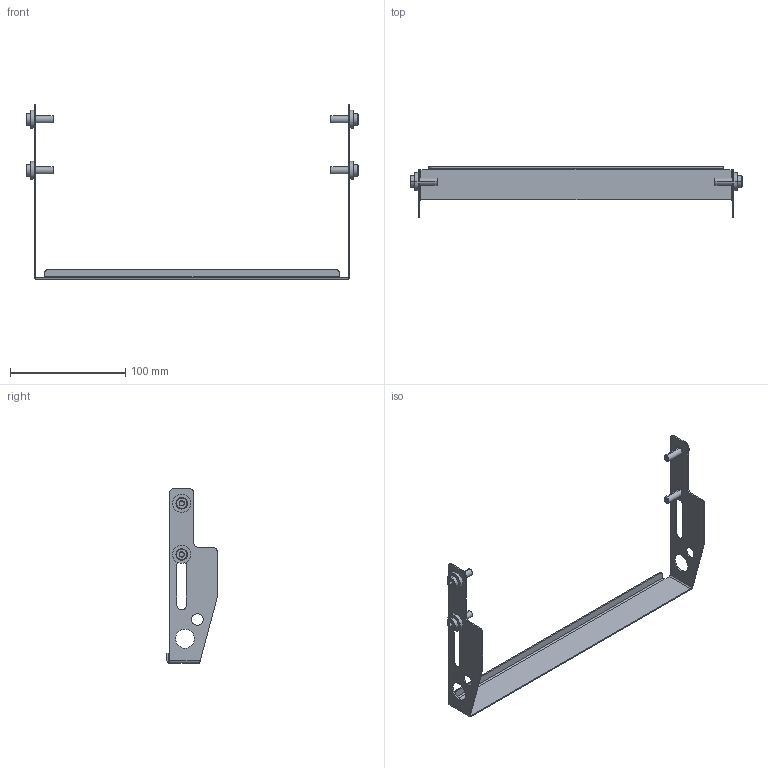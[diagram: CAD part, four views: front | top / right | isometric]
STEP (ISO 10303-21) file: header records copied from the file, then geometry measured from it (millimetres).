
FILE_DESCRIPTION((''),'2;1');
FILE_NAME('207218-10_ASM','2016-08-04T',('adam.dellomodarme'),(''),'PRO/ENGINEER BY PARAMETRIC TECHNOLOGY CORPORATION, 2012420','PRO/ENGINEER BY PARAMETRIC TECHNOLOGY CORPORATION, 2012420','');
FILE_SCHEMA(('CONFIG_CONTROL_DESIGN'));
Length unit declared in the file: inch
Products named in the file (5): 9506XXM_950620M; 605279P; 207125-WW_207125-10; ASM0001_ASM; 207218-10_ASM
Assembly tree (10 placements, depth 3):
  207218-10_ASM
    ASM0001_ASM
      9506XXM_950620M  x4
      605279P  x4
      207125-WW_207125-10
Bounding box: 288.7 x 43.71 x 151.79 mm (x, y, z)
Volume: 26550.2 mm3; surface area: 41953.3 mm2
Topology: 9 solids, 9 shells, 212 faces, 492 edges, 306 vertices
Faces by surface type: plane 90, cylinder 78, cone 44
Entity records: 3972 total; most frequent: CARTESIAN_POINT 724, DIRECTION 705, ORIENTED_EDGE 618, EDGE_CURVE 309, AXIS2_PLACEMENT_3D 265, VERTEX_POINT 198, VECTOR 175, LINE 175
